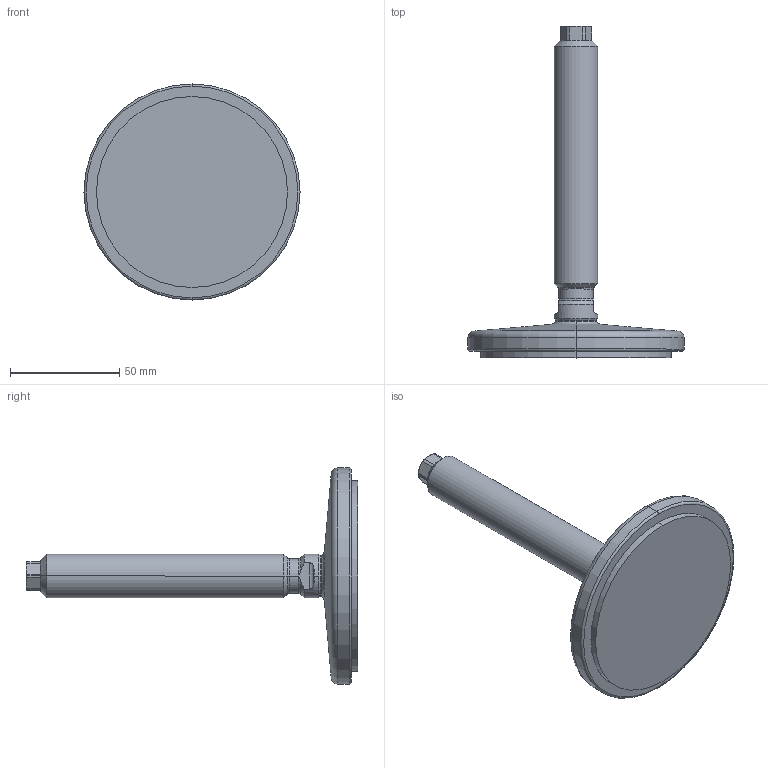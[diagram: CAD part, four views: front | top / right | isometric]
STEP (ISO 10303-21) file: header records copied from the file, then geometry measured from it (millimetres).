
FILE_DESCRIPTION (( 'STEP AP214' ), '1' );
FILE_NAME ('21-100-M20-125-D1-V.step', '2020-10-02T17:37:12', ( '' ), ( '' ), 'SwSTEP 2.0', 'SolidWorks 2019', '' );
FILE_SCHEMA (( 'AUTOMOTIVE_DESIGN' ));
Length unit declared in the file: millimetre
Products named in the file (3): WB21_Spindel_V^WB21_V_M20-125; 21-100-M20-125-D1-V; WB21_Fußteller 21^WB21_V_D1-100-R12-B9 (M20)
Assembly tree (2 placements, depth 2):
  21-100-M20-125-D1-V
    WB21_Fußteller 21^WB21_V_D1-100-R12-B9 (M20)
    WB21_Spindel_V^WB21_V_M20-125
Bounding box: 99 x 152.02 x 99 mm (x, y, z)
Volume: 138257.3 mm3; surface area: 27803.4 mm2
Topology: 2 solids, 2 shells, 76 faces, 171 edges, 101 vertices
Faces by surface type: cylinder 25, plane 20, cone 17, torus 10, sphere 4
Entity records: 2387 total; most frequent: CARTESIAN_POINT 505, DIRECTION 390, ORIENTED_EDGE 342, EDGE_CURVE 171, AXIS2_PLACEMENT_3D 166, VERTEX_POINT 101, CIRCLE 85, EDGE_LOOP 78
